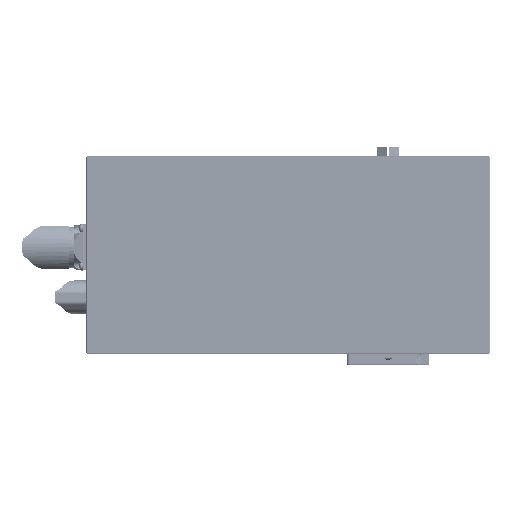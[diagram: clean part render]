
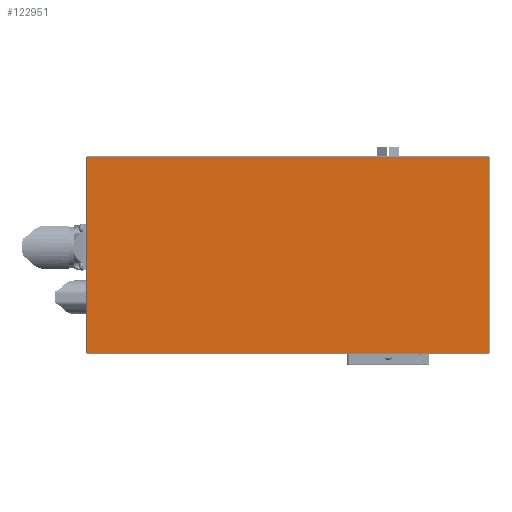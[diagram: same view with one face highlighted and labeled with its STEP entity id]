
A CAD part, top view. The second image highlights one B-rep face of the part: STEP entity #122951.
In plain terms, the highlighted planar face has unit normal (0, 0, 1).
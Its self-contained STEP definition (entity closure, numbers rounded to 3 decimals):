
#122912=CARTESIAN_POINT('',(-60.4,62.5,568.));
#122913=DIRECTION('',(0.,1.,0.));
#122914=DIRECTION('',(0.,0.,-1.));
#122915=AXIS2_PLACEMENT_3D('',#122912,#122914,#122913);
#122916=PLANE('',#122915);
#122917=CARTESIAN_POINT('',(-181.9,-59.,568.));
#122918=VERTEX_POINT('',#122917);
#122919=CARTESIAN_POINT('',(-181.9,59.,568.));
#122920=VERTEX_POINT('',#122919);
#122921=CARTESIAN_POINT('',(-181.9,-59.,568.));
#122922=DIRECTION('',(0.,1.,0.));
#122923=VECTOR('',#122922,118.);
#122924=LINE('',#122921,#122923);
#122925=EDGE_CURVE('',#122918,#122920,#122924,.T.);
#122926=ORIENTED_EDGE('E69',*,*,#122925,.T.);
#122927=CARTESIAN_POINT('',(61.1,59.,568.));
#122928=VERTEX_POINT('',#122927);
#122929=CARTESIAN_POINT('',(-181.9,59.,568.));
#122930=DIRECTION('',(1.,0.,0.));
#122931=VECTOR('',#122930,243.);
#122932=LINE('',#122929,#122931);
#122933=EDGE_CURVE('',#122920,#122928,#122932,.T.);
#122934=ORIENTED_EDGE('E74',*,*,#122933,.T.);
#122935=CARTESIAN_POINT('',(61.1,-59.,568.));
#122936=VERTEX_POINT('',#122935);
#122937=CARTESIAN_POINT('',(61.1,59.,568.));
#122938=DIRECTION('',(0.,-1.,0.));
#122939=VECTOR('',#122938,118.);
#122940=LINE('',#122937,#122939);
#122941=EDGE_CURVE('',#122928,#122936,#122940,.T.);
#122942=ORIENTED_EDGE('E76',*,*,#122941,.T.);
#122943=CARTESIAN_POINT('',(61.1,-59.,568.));
#122944=DIRECTION('',(-1.,0.,0.));
#122945=VECTOR('',#122944,243.);
#122946=LINE('',#122943,#122945);
#122947=EDGE_CURVE('',#122936,#122918,#122946,.T.);
#122948=ORIENTED_EDGE('E72',*,*,#122947,.T.);
#122949=EDGE_LOOP('',(#122926,#122934,#122942,#122948));
#122950=FACE_OUTER_BOUND('',#122949,.F.);
#122951=ADVANCED_FACE('F8',(#122950),#122916,.F.);
